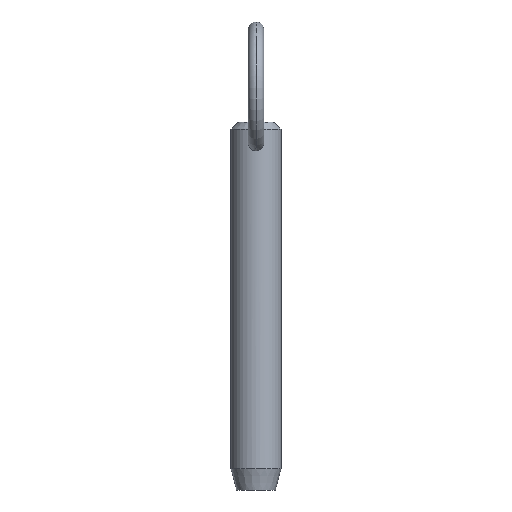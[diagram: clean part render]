
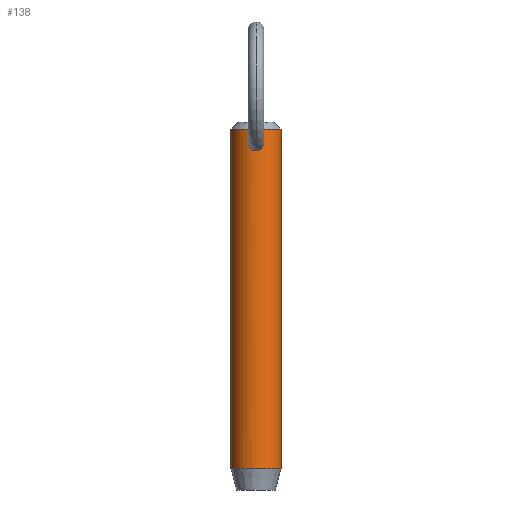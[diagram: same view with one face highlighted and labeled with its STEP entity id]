
A CAD part, front view. The second image highlights one B-rep face of the part: STEP entity #138.
In plain terms, the highlighted cylindrical face has radius 4.76 mm (diameter 9.52 mm), a partial arc.
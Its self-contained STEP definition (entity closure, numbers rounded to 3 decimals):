
#3 = LINE ( 'NONE', #198, #42 ) ;
#5 = DIRECTION ( 'NONE',  ( -1., 0., 0. ) ) ;
#18 = CARTESIAN_POINT ( 'NONE',  ( 0.512, -4.733, 51.808 ) ) ;
#22 = CARTESIAN_POINT ( 'NONE',  ( 0.687, -4.711, 54.835 ) ) ;
#24 = CARTESIAN_POINT ( 'NONE',  ( 1.293, -4.582, 54.142 ) ) ;
#27 = CARTESIAN_POINT ( 'NONE',  ( 0., -4.76, 51.726 ) ) ;
#28 = LINE ( 'NONE', #451, #482 ) ;
#29 = VERTEX_POINT ( 'NONE', #113 ) ;
#31 = CARTESIAN_POINT ( 'NONE',  ( -1.508, -4.515, 53.137 ) ) ;
#34 = CARTESIAN_POINT ( 'NONE',  ( 0., -4.76, 55.048 ) ) ;
#37 = DIRECTION ( 'NONE',  ( 0., 0., -1. ) ) ;
#40 = DIRECTION ( 'NONE',  ( 0., 0., 1. ) ) ;
#42 = VECTOR ( 'NONE', #396, 1000. ) ;
#51 = B_SPLINE_CURVE_WITH_KNOTS ( 'NONE', 3,
 ( #27, #354, #439, #484, #233, #434, #160, #120, #236, #522, #31, #356, #398, #203, #400, #485, #161, #158, #284, #437, #238, #34 ),
 .UNSPECIFIED., .F., .F.,
 ( 4, 2, 2, 2, 2, 2, 2, 2, 2, 2, 4 ),
 ( 0.009, 0.01, 0.01, 0.011, 0.011, 0.012, 0.012, 0.013, 0.014, 0.014, 0.014 ),
 .UNSPECIFIED. ) ;
#52 = DIRECTION ( 'NONE',  ( -1., 0., 0. ) ) ;
#59 = EDGE_CURVE ( 'NONE', #478, #235, #3, .T. ) ;
#61 = CARTESIAN_POINT ( 'NONE',  ( 0.104, -4.76, 55.048 ) ) ;
#74 = DIRECTION ( 'NONE',  ( 0., 0., -1. ) ) ;
#78 = CARTESIAN_POINT ( 'NONE',  ( 1.385, -4.554, 52.632 ) ) ;
#83 = CARTESIAN_POINT ( 'NONE',  ( 1.24, -4.596, 52.36 ) ) ;
#102 = B_SPLINE_CURVE_WITH_KNOTS ( 'NONE', 3,
 ( #517, #61, #153, #475, #271, #22, #311, #391, #314, #273, #24, #448, #319, #407, #325, #241, #119, #363, #288, #78, #365, #83, #402, #162, #511, #18, #468, #183, #152, #220 ),
 .UNSPECIFIED., .F., .F.,
 ( 4, 2, 2, 2, 2, 2, 2, 2, 2, 2, 2, 2, 2, 2, 4 ),
 ( 0.004, 0.005, 0.005, 0.005, 0.006, 0.006, 0.007, 0.007, 0.007, 0.007, 0.008, 0.008, 0.009, 0.009, 0.009 ),
 .UNSPECIFIED. ) ;
#103 = EDGE_CURVE ( 'NONE', #259, #29, #51, .T. ) ;
#108 = CIRCLE ( 'NONE', #137, 4.76 ) ;
#112 = CARTESIAN_POINT ( 'NONE',  ( -4.76, 0., -8.7 ) ) ;
#113 = CARTESIAN_POINT ( 'NONE',  ( 0., -4.76, 55.048 ) ) ;
#117 = EDGE_CURVE ( 'NONE', #234, #478, #108, .T. ) ;
#119 = CARTESIAN_POINT ( 'NONE',  ( 1.499, -4.518, 53.137 ) ) ;
#120 = CARTESIAN_POINT ( 'NONE',  ( -1.247, -4.596, 52.352 ) ) ;
#128 = EDGE_CURVE ( 'NONE', #235, #142, #385, .T. ) ;
#137 = AXIS2_PLACEMENT_3D ( 'NONE', #286, #37, #444 ) ;
#138 = ADVANCED_FACE ( 'NONE', ( #210, #429 ), #302, .T. ) ;
#142 = VERTEX_POINT ( 'NONE', #379 ) ;
#147 = CARTESIAN_POINT ( 'NONE',  ( 4.76, 0., 55.85 ) ) ;
#152 = CARTESIAN_POINT ( 'NONE',  ( 0.105, -4.76, 51.726 ) ) ;
#153 = CARTESIAN_POINT ( 'NONE',  ( 0.209, -4.756, 55.034 ) ) ;
#158 = CARTESIAN_POINT ( 'NONE',  ( -0.504, -4.734, 54.938 ) ) ;
#160 = CARTESIAN_POINT ( 'NONE',  ( -1.039, -4.646, 52.126 ) ) ;
#161 = CARTESIAN_POINT ( 'NONE',  ( -0.777, -4.7, 54.785 ) ) ;
#162 = CARTESIAN_POINT ( 'NONE',  ( 0.97, -4.662, 52.05 ) ) ;
#164 = ORIENTED_EDGE ( 'NONE', *, *, #359, .F. ) ;
#170 = ORIENTED_EDGE ( 'NONE', *, *, #117, .T. ) ;
#173 = CARTESIAN_POINT ( 'NONE',  ( 0., 0., -8.7 ) ) ;
#183 = CARTESIAN_POINT ( 'NONE',  ( 0.208, -4.757, 51.736 ) ) ;
#198 = CARTESIAN_POINT ( 'NONE',  ( -4.76, 0., 50.8 ) ) ;
#203 = CARTESIAN_POINT ( 'NONE',  ( -1.292, -4.582, 54.145 ) ) ;
#210 = FACE_OUTER_BOUND ( 'NONE', #415, .T. ) ;
#220 = CARTESIAN_POINT ( 'NONE',  ( 0., -4.76, 51.726 ) ) ;
#233 = CARTESIAN_POINT ( 'NONE',  ( -0.793, -4.694, 51.939 ) ) ;
#234 = VERTEX_POINT ( 'NONE', #147 ) ;
#235 = VERTEX_POINT ( 'NONE', #112 ) ;
#236 = CARTESIAN_POINT ( 'NONE',  ( -1.353, -4.564, 52.535 ) ) ;
#238 = CARTESIAN_POINT ( 'NONE',  ( -0.103, -4.76, 55.048 ) ) ;
#241 = CARTESIAN_POINT ( 'NONE',  ( 1.503, -4.517, 53.24 ) ) ;
#253 = EDGE_CURVE ( 'NONE', #29, #259, #102, .T. ) ;
#259 = VERTEX_POINT ( 'NONE', #348 ) ;
#271 = CARTESIAN_POINT ( 'NONE',  ( 0.506, -4.734, 54.937 ) ) ;
#273 = CARTESIAN_POINT ( 'NONE',  ( 1.19, -4.611, 54.324 ) ) ;
#283 = ORIENTED_EDGE ( 'NONE', *, *, #128, .T. ) ;
#284 = CARTESIAN_POINT ( 'NONE',  ( -0.409, -4.743, 54.978 ) ) ;
#286 = CARTESIAN_POINT ( 'NONE',  ( 0., 0., 55.85 ) ) ;
#288 = CARTESIAN_POINT ( 'NONE',  ( 1.45, -4.534, 52.828 ) ) ;
#302 = CYLINDRICAL_SURFACE ( 'NONE', #416, 4.76 ) ;
#311 = CARTESIAN_POINT ( 'NONE',  ( 0.77, -4.698, 54.775 ) ) ;
#314 = CARTESIAN_POINT ( 'NONE',  ( 0.997, -4.655, 54.564 ) ) ;
#319 = CARTESIAN_POINT ( 'NONE',  ( 1.434, -4.539, 53.754 ) ) ;
#322 = AXIS2_PLACEMENT_3D ( 'NONE', #173, #40, #52 ) ;
#325 = CARTESIAN_POINT ( 'NONE',  ( 1.492, -4.52, 53.448 ) ) ;
#326 = CARTESIAN_POINT ( 'NONE',  ( 0., 0., 50.8 ) ) ;
#348 = CARTESIAN_POINT ( 'NONE',  ( 0., -4.76, 51.726 ) ) ;
#352 = EDGE_LOOP ( 'NONE', ( #436, #394 ) ) ;
#354 = CARTESIAN_POINT ( 'NONE',  ( -0.21, -4.76, 51.726 ) ) ;
#356 = CARTESIAN_POINT ( 'NONE',  ( -1.487, -4.522, 53.553 ) ) ;
#359 = EDGE_CURVE ( 'NONE', #234, #142, #28, .T. ) ;
#363 = CARTESIAN_POINT ( 'NONE',  ( 1.473, -4.526, 52.931 ) ) ;
#365 = CARTESIAN_POINT ( 'NONE',  ( 1.344, -4.567, 52.539 ) ) ;
#379 = CARTESIAN_POINT ( 'NONE',  ( 4.76, 0., -8.7 ) ) ;
#385 = CIRCLE ( 'NONE', #322, 4.76 ) ;
#386 = ORIENTED_EDGE ( 'NONE', *, *, #59, .T. ) ;
#391 = CARTESIAN_POINT ( 'NONE',  ( 0.925, -4.67, 54.639 ) ) ;
#394 = ORIENTED_EDGE ( 'NONE', *, *, #103, .T. ) ;
#396 = DIRECTION ( 'NONE',  ( 0., 0., -1. ) ) ;
#398 = CARTESIAN_POINT ( 'NONE',  ( -1.441, -4.537, 53.757 ) ) ;
#400 = CARTESIAN_POINT ( 'NONE',  ( -1.19, -4.611, 54.324 ) ) ;
#402 = CARTESIAN_POINT ( 'NONE',  ( 1.178, -4.613, 52.276 ) ) ;
#407 = CARTESIAN_POINT ( 'NONE',  ( 1.478, -4.525, 53.552 ) ) ;
#415 = EDGE_LOOP ( 'NONE', ( #164, #170, #386, #283 ) ) ;
#416 = AXIS2_PLACEMENT_3D ( 'NONE', #326, #492, #5 ) ;
#429 = FACE_BOUND ( 'NONE', #352, .T. ) ;
#434 = CARTESIAN_POINT ( 'NONE',  ( -0.961, -4.663, 52.057 ) ) ;
#436 = ORIENTED_EDGE ( 'NONE', *, *, #253, .T. ) ;
#437 = CARTESIAN_POINT ( 'NONE',  ( -0.208, -4.757, 55.034 ) ) ;
#439 = CARTESIAN_POINT ( 'NONE',  ( -0.416, -4.746, 51.767 ) ) ;
#443 = CARTESIAN_POINT ( 'NONE',  ( -4.76, 0., 55.85 ) ) ;
#444 = DIRECTION ( 'NONE',  ( 1., 0., 0. ) ) ;
#448 = CARTESIAN_POINT ( 'NONE',  ( 1.404, -4.548, 53.853 ) ) ;
#451 = CARTESIAN_POINT ( 'NONE',  ( 4.76, 0., 50.8 ) ) ;
#468 = CARTESIAN_POINT ( 'NONE',  ( 0.411, -4.743, 51.777 ) ) ;
#475 = CARTESIAN_POINT ( 'NONE',  ( 0.409, -4.743, 54.978 ) ) ;
#478 = VERTEX_POINT ( 'NONE', #443 ) ;
#482 = VECTOR ( 'NONE', #74, 1000. ) ;
#484 = CARTESIAN_POINT ( 'NONE',  ( -0.703, -4.709, 51.889 ) ) ;
#485 = CARTESIAN_POINT ( 'NONE',  ( -0.932, -4.67, 54.645 ) ) ;
#492 = DIRECTION ( 'NONE',  ( 0., 0., -1. ) ) ;
#511 = CARTESIAN_POINT ( 'NONE',  ( 0.797, -4.697, 51.929 ) ) ;
#517 = CARTESIAN_POINT ( 'NONE',  ( 0., -4.76, 55.048 ) ) ;
#522 = CARTESIAN_POINT ( 'NONE',  ( -1.483, -4.524, 52.926 ) ) ;
